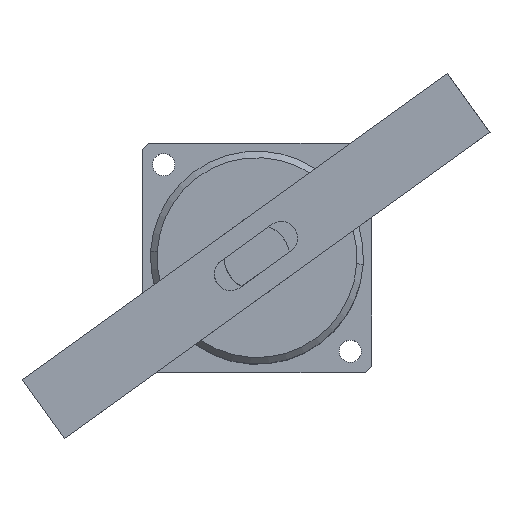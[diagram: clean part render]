
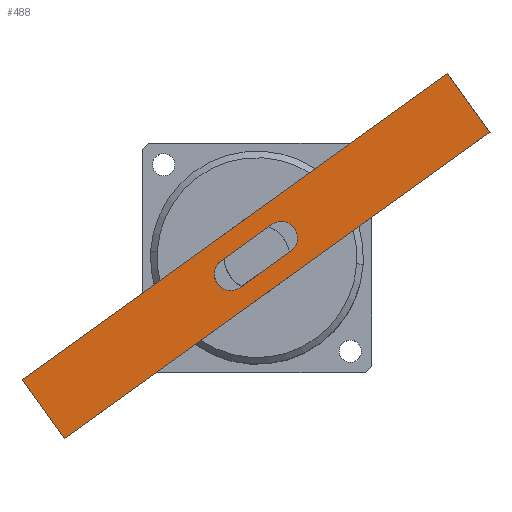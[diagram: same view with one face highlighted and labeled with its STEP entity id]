
A CAD part, top view. The second image highlights one B-rep face of the part: STEP entity #488.
In plain terms, the highlighted planar face has unit normal (-0.002, -0.002, 1) as drawn and (0, 1, 0) by its records, which use the part's own axes.
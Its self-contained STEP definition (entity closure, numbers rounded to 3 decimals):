
#449 = VERTEX_POINT ( 'NONE', #1518 ) ;
#456 = VERTEX_POINT ( 'NONE', #1507 ) ;
#458 = EDGE_CURVE ( 'NONE', #456, #449, #1506, .T. ) ;
#480 = ORIENTED_EDGE ( 'NONE', *, *, #483, .T. ) ;
#483 = EDGE_CURVE ( 'NONE', #484, #510, #1532, .T. ) ;
#484 = VERTEX_POINT ( 'NONE', #1528 ) ;
#488 = ADVANCED_FACE ( 'NONE', ( #1522, #1521 ), #1527, .F. ) ;
#489 = EDGE_LOOP ( 'NONE', ( #490, #494, #551, #554 ) ) ;
#490 = ORIENTED_EDGE ( 'NONE', *, *, #491, .F. ) ;
#491 = EDGE_CURVE ( 'NONE', #492, #493, #1582, .T. ) ;
#492 = VERTEX_POINT ( 'NONE', #1578 ) ;
#493 = VERTEX_POINT ( 'NONE', #1577 ) ;
#494 = ORIENTED_EDGE ( 'NONE', *, *, #495, .F. ) ;
#495 = EDGE_CURVE ( 'NONE', #496, #492, #1576, .T. ) ;
#496 = VERTEX_POINT ( 'NONE', #1571 ) ;
#510 = VERTEX_POINT ( 'NONE', #1611 ) ;
#551 = ORIENTED_EDGE ( 'NONE', *, *, #552, .F. ) ;
#552 = EDGE_CURVE ( 'NONE', #553, #496, #1684, .T. ) ;
#553 = VERTEX_POINT ( 'NONE', #1680 ) ;
#554 = ORIENTED_EDGE ( 'NONE', *, *, #555, .F. ) ;
#555 = EDGE_CURVE ( 'NONE', #493, #553, #1679, .T. ) ;
#556 = EDGE_LOOP ( 'NONE', ( #557, #559, #560, #480 ) ) ;
#557 = ORIENTED_EDGE ( 'NONE', *, *, #558, .T. ) ;
#558 = EDGE_CURVE ( 'NONE', #510, #449, #1674, .T. ) ;
#559 = ORIENTED_EDGE ( 'NONE', *, *, #458, .F. ) ;
#560 = ORIENTED_EDGE ( 'NONE', *, *, #561, .F. ) ;
#561 = EDGE_CURVE ( 'NONE', #484, #456, #1670, .T. ) ;
#1503 = DIRECTION ( 'NONE',  ( 0., 0., -1. ) ) ;
#1504 = VECTOR ( 'NONE', #1503, 1000. ) ;
#1505 = CARTESIAN_POINT ( 'NONE',  ( 0., 22.2, 22.2 ) ) ;
#1506 = LINE ( 'NONE', #1505, #1504 ) ;
#1507 = CARTESIAN_POINT ( 'NONE',  ( 0., 22.2, 22.2 ) ) ;
#1518 = CARTESIAN_POINT ( 'NONE',  ( 0., 22.2, 0. ) ) ;
#1521 = FACE_OUTER_BOUND ( 'NONE', #556, .T. ) ;
#1522 = FACE_BOUND ( 'NONE', #489, .T. ) ;
#1527 = PLANE ( 'NONE',  #1586 ) ;
#1528 = CARTESIAN_POINT ( 'NONE',  ( 160., 22.2, 22.2 ) ) ;
#1529 = DIRECTION ( 'NONE',  ( 0., 0., -1. ) ) ;
#1530 = VECTOR ( 'NONE', #1529, 1000. ) ;
#1531 = CARTESIAN_POINT ( 'NONE',  ( 160., 22.2, 22.2 ) ) ;
#1532 = LINE ( 'NONE', #1531, #1530 ) ;
#1571 = CARTESIAN_POINT ( 'NONE',  ( 89.5, 22.2, 16.1 ) ) ;
#1572 = DIRECTION ( 'NONE',  ( 0., 0., 1. ) ) ;
#1573 = DIRECTION ( 'NONE',  ( 0., 1., 0. ) ) ;
#1574 = CARTESIAN_POINT ( 'NONE',  ( 89.5, 22.2, 11.1 ) ) ;
#1575 = AXIS2_PLACEMENT_3D ( 'NONE', #1574, #1573, #1572 ) ;
#1576 = CIRCLE ( 'NONE', #1575, 5. ) ;
#1577 = CARTESIAN_POINT ( 'NONE',  ( 70.5, 22.2, 6.1 ) ) ;
#1578 = CARTESIAN_POINT ( 'NONE',  ( 89.5, 22.2, 6.1 ) ) ;
#1579 = DIRECTION ( 'NONE',  ( -1., 0., 0. ) ) ;
#1580 = VECTOR ( 'NONE', #1579, 1000. ) ;
#1581 = CARTESIAN_POINT ( 'NONE',  ( 70.5, 22.2, 6.1 ) ) ;
#1582 = LINE ( 'NONE', #1581, #1580 ) ;
#1583 = DIRECTION ( 'NONE',  ( 0., 0., -1. ) ) ;
#1584 = DIRECTION ( 'NONE',  ( 0., -1., 0. ) ) ;
#1585 = CARTESIAN_POINT ( 'NONE',  ( 0., 22.2, 22.2 ) ) ;
#1586 = AXIS2_PLACEMENT_3D ( 'NONE', #1585, #1584, #1583 ) ;
#1611 = CARTESIAN_POINT ( 'NONE',  ( 160., 22.2, 0. ) ) ;
#1667 = DIRECTION ( 'NONE',  ( -1., 0., 0. ) ) ;
#1668 = VECTOR ( 'NONE', #1667, 1000. ) ;
#1669 = CARTESIAN_POINT ( 'NONE',  ( 0., 22.2, 22.2 ) ) ;
#1670 = LINE ( 'NONE', #1669, #1668 ) ;
#1671 = DIRECTION ( 'NONE',  ( -1., 0., 0. ) ) ;
#1672 = VECTOR ( 'NONE', #1671, 1000. ) ;
#1673 = CARTESIAN_POINT ( 'NONE',  ( 0., 22.2, 0. ) ) ;
#1674 = LINE ( 'NONE', #1673, #1672 ) ;
#1675 = DIRECTION ( 'NONE',  ( 0., 0., 1. ) ) ;
#1676 = DIRECTION ( 'NONE',  ( 0., 1., 0. ) ) ;
#1677 = CARTESIAN_POINT ( 'NONE',  ( 70.5, 22.2, 11.1 ) ) ;
#1678 = AXIS2_PLACEMENT_3D ( 'NONE', #1677, #1676, #1675 ) ;
#1679 = CIRCLE ( 'NONE', #1678, 5. ) ;
#1680 = CARTESIAN_POINT ( 'NONE',  ( 70.5, 22.2, 16.1 ) ) ;
#1681 = DIRECTION ( 'NONE',  ( 1., 0., 0. ) ) ;
#1682 = VECTOR ( 'NONE', #1681, 1000. ) ;
#1683 = CARTESIAN_POINT ( 'NONE',  ( 70.5, 22.2, 16.1 ) ) ;
#1684 = LINE ( 'NONE', #1683, #1682 ) ;
